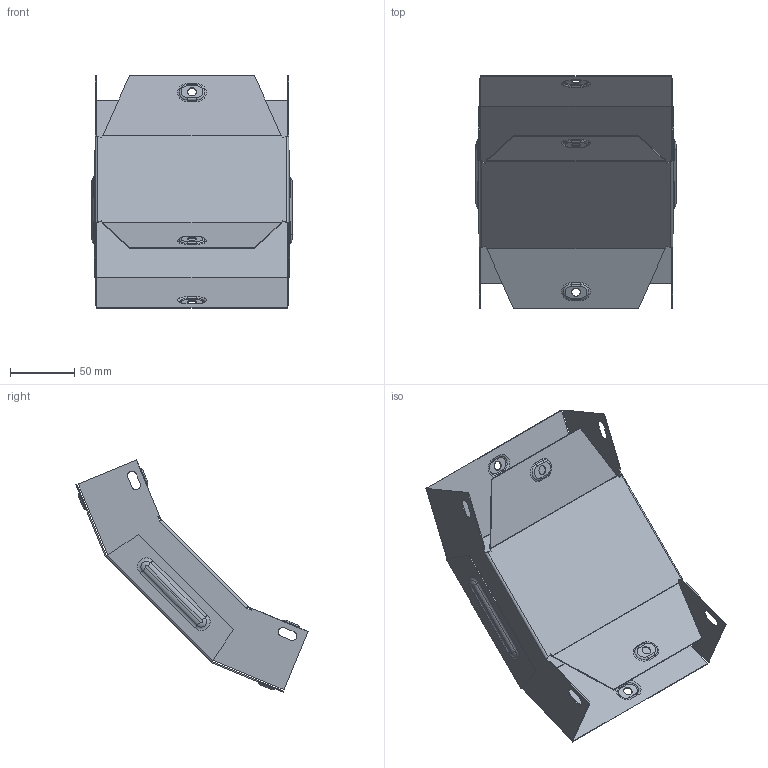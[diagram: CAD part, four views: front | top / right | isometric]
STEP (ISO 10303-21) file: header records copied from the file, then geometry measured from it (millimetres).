
FILE_DESCRIPTION (( 'STEP AP214' ), '1' );
FILE_NAME ('vo4550150_捘.STEP', '2019-06-10T08:15:37', ( '砐錪賧瘔蠈錪 Windows' ), ( '' ), 'SwSTEP 2.0', 'SolidWorks 2018', '' );
FILE_SCHEMA (( 'AUTOMOTIVE_DESIGN' ));
Length unit declared in the file: millimetre
Products named in the file (1): vo4550150_捘
Bounding box: 155.6 x 180.14 x 180.14 mm (x, y, z)
Volume: 70752.3 mm3; surface area: 178819.3 mm2
Topology: 2 solids, 2 shells, 352 faces, 858 edges, 532 vertices
Faces by surface type: plane 165, cylinder 106, torus 64, bspline 17
Entity records: 10922 total; most frequent: CARTESIAN_POINT 2507, DIRECTION 1772, ORIENTED_EDGE 1716, EDGE_CURVE 858, AXIS2_PLACEMENT_3D 628, VERTEX_POINT 532, VECTOR 516, LINE 516
